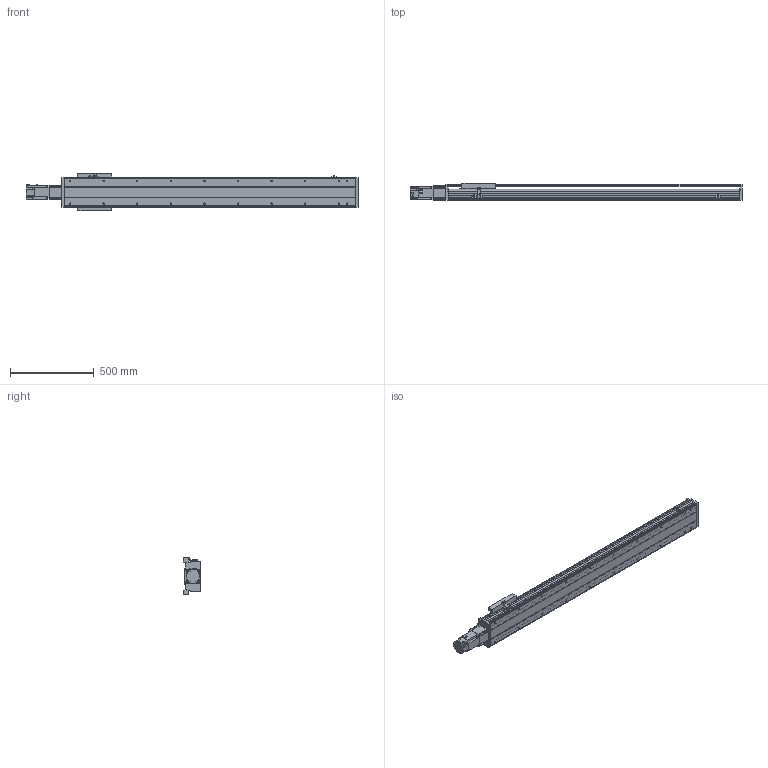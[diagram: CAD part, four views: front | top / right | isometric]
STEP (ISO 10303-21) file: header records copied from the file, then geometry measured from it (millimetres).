
FILE_DESCRIPTION( ( 'STEP AP214' ), '1' );
FILE_NAME( 'x:/temp/worker_27/temp/exporttempdir_6708_416_AYrh3/format_0/PSS200-L10-S1400-BC-T75-C1-N(0).stp', '2022-06-06T02:37:34', ( 'License CC BY-ND 4.0' ), ( 'CADENAS' ), ' ', 'PARTsolutions', ' ' );
FILE_SCHEMA( ( 'AUTOMOTIVE_DESIGN { 1 0 10303 214 1 1 1 1 }' ) );
Length unit declared in the file: millimetre
Products named in the file (8): PSS200-L10-S1400-BC-T75-C1-N(0); _PSS200-S1400-BC-C1-N_body; _PSS200-N_Q; _PSS200-BC-C1-N_sl; _PSS200-N_sensor; _PSS200BC-N_h; _T75-p1; _PSS200-S1400-BC-N_S
Assembly tree (9 placements, depth 2):
  PSS200-L10-S1400-BC-T75-C1-N(0)
    _PSS200-S1400-BC-C1-N_body
    _PSS200-N_Q
    _PSS200-BC-C1-N_sl
    _PSS200-N_sensor  x3
    _PSS200BC-N_h
    _T75-p1
    _PSS200-S1400-BC-N_S
Bounding box: 1976.3 x 101.5 x 223.86 mm (x, y, z)
Volume: 10381196.5 mm3; surface area: 2751210.2 mm2
Topology: 9 solids, 9 shells, 593 faces, 1591 edges, 1056 vertices
Faces by surface type: plane 439, cylinder 126, cone 28
Full cylindrical faces by diameter (mm): 4 x2, 4.5 x4, 6 x11, 6.647 x24, 8 x8, 10 x6, 25 x1, 67 x1, 70 x1
Entity records: 20791 total; most frequent: CARTESIAN_POINT 2888, DIRECTION 2721, ORIENTED_EDGE 2678, EDGE_CURVE 1339, LINE 1051, VECTOR 1051, VERTEX_POINT 938, AXIS2_PLACEMENT_3D 835
